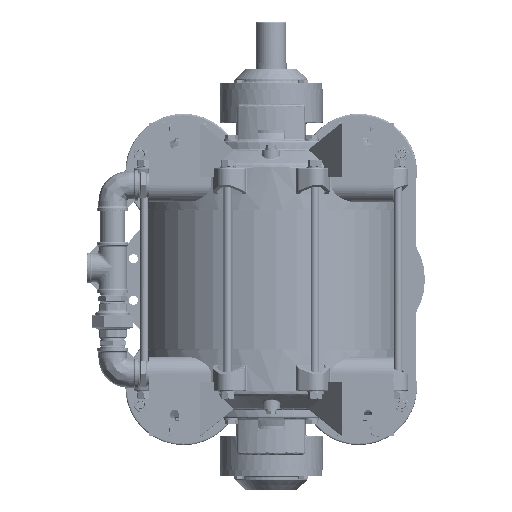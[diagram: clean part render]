
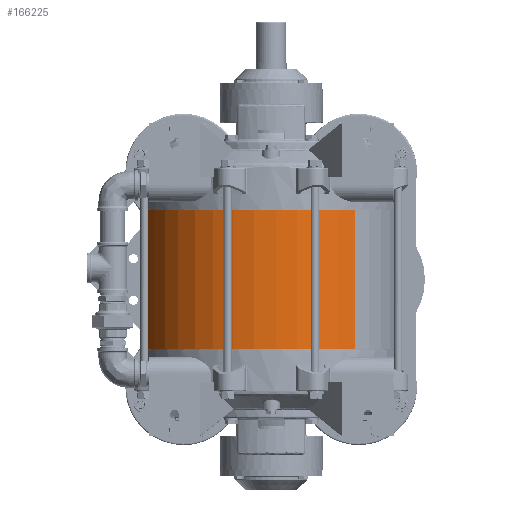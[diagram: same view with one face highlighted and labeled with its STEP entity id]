
A CAD part, front view. The second image highlights one B-rep face of the part: STEP entity #166225.
In plain terms, the highlighted cylindrical face has radius 254 mm (diameter 508 mm), a partial arc.
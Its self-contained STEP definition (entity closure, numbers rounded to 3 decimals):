
#3451 = LINE ( 'NONE', #214480, #220392 ) ;
#5666 = CARTESIAN_POINT ( 'NONE',  ( -414.989, -181.668, -182.5 ) ) ;
#10549 = FACE_OUTER_BOUND ( 'NONE', #67706, .T. ) ;
#13400 = CARTESIAN_POINT ( 'NONE',  ( -163.108, -148.927, -182.5 ) ) ;
#15996 = CARTESIAN_POINT ( 'NONE',  ( -1.444, -344.837, -182.5 ) ) ;
#58857 = ORIENTED_EDGE ( 'NONE', *, *, #560390, .T. ) ;
#67706 = EDGE_LOOP ( 'NONE', ( #120950, #502809, #190085, #58857 ) ) ;
#74874 = DIRECTION ( 'NONE',  ( 0., 0., 1. ) ) ;
#88917 = VECTOR ( 'NONE', #74874, 1000. ) ;
#94291 = CIRCLE ( 'NONE', #426537, 254. ) ;
#105820 = DIRECTION ( 'NONE',  ( 0., 0., 1. ) ) ;
#120950 = ORIENTED_EDGE ( 'NONE', *, *, #288580, .T. ) ;
#132025 = DIRECTION ( 'NONE',  ( 0., 0., 1. ) ) ;
#140757 = VERTEX_POINT ( 'NONE', #5666 ) ;
#143396 = CARTESIAN_POINT ( 'NONE',  ( -414.989, -181.668, 87.5 ) ) ;
#157405 = CIRCLE ( 'NONE', #175480, 254. ) ;
#166225 = ADVANCED_FACE ( 'NONE', ( #10549 ), #409054, .T. ) ;
#169646 = CARTESIAN_POINT ( 'NONE',  ( -163.108, -148.927, 87.5 ) ) ;
#172478 = DIRECTION ( 'NONE',  ( 0.636, -0.771, 0. ) ) ;
#175480 = AXIS2_PLACEMENT_3D ( 'NONE', #169646, #132025, #172478 ) ;
#182462 = DIRECTION ( 'NONE',  ( 0., 0., -1. ) ) ;
#189577 = DIRECTION ( 'NONE',  ( 0.636, -0.771, 0. ) ) ;
#190085 = ORIENTED_EDGE ( 'NONE', *, *, #282239, .F. ) ;
#207708 = LINE ( 'NONE', #294347, #88917 ) ;
#214480 = CARTESIAN_POINT ( 'NONE',  ( -414.989, -181.668, -182.5 ) ) ;
#220392 = VECTOR ( 'NONE', #182462, 1000. ) ;
#241242 = CARTESIAN_POINT ( 'NONE',  ( -1.444, -344.837, 87.5 ) ) ;
#264002 = AXIS2_PLACEMENT_3D ( 'NONE', #13400, #105820, #189577 ) ;
#282239 = EDGE_CURVE ( 'NONE', #370112, #493506, #157405, .T. ) ;
#288580 = EDGE_CURVE ( 'NONE', #140757, #306157, #94291, .T. ) ;
#294347 = CARTESIAN_POINT ( 'NONE',  ( -1.444, -344.837, -182.5 ) ) ;
#306157 = VERTEX_POINT ( 'NONE', #15996 ) ;
#312518 = DIRECTION ( 'NONE',  ( 0.636, -0.771, 0. ) ) ;
#358605 = CARTESIAN_POINT ( 'NONE',  ( -163.108, -148.927, -182.5 ) ) ;
#370112 = VERTEX_POINT ( 'NONE', #143396 ) ;
#393405 = DIRECTION ( 'NONE',  ( 0., 0., 1. ) ) ;
#409054 = CYLINDRICAL_SURFACE ( 'NONE', #264002, 254. ) ;
#426537 = AXIS2_PLACEMENT_3D ( 'NONE', #358605, #393405, #312518 ) ;
#491857 = EDGE_CURVE ( 'NONE', #306157, #493506, #207708, .T. ) ;
#493506 = VERTEX_POINT ( 'NONE', #241242 ) ;
#502809 = ORIENTED_EDGE ( 'NONE', *, *, #491857, .T. ) ;
#560390 = EDGE_CURVE ( 'NONE', #370112, #140757, #3451, .T. ) ;
